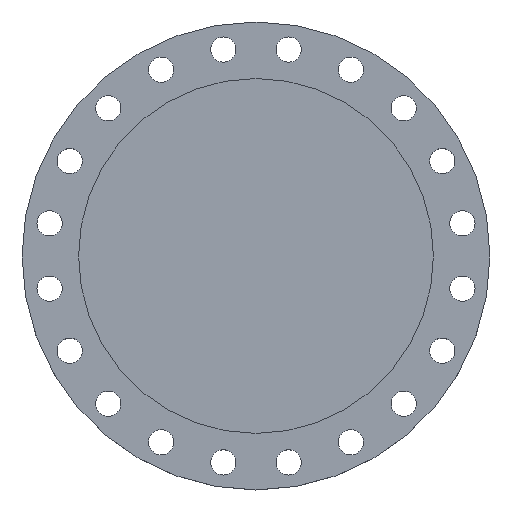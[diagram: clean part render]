
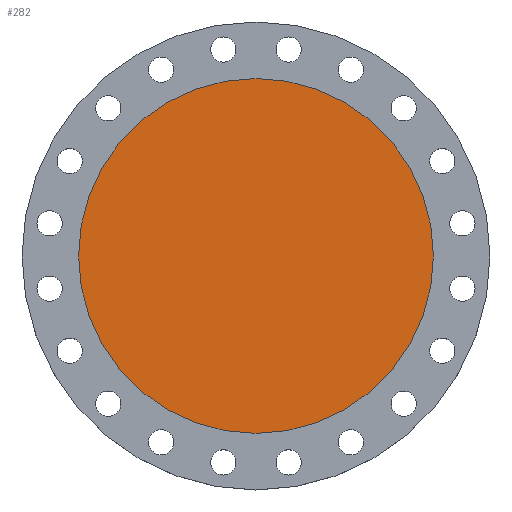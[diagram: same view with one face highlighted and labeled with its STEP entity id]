
A CAD part, top view. The second image highlights one B-rep face of the part: STEP entity #282.
In plain terms, the highlighted planar face has unit normal (0, 0, 1).
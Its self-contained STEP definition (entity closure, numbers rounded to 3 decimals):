
#95 = EDGE_CURVE ( 'NONE', #1009, #1449, #222, .T. ) ;
#222 = CIRCLE ( 'NONE', #228, 337.5 ) ;
#228 = AXIS2_PLACEMENT_3D ( 'NONE', #964, #963, #962 ) ;
#282 = ADVANCED_FACE ( 'NONE', ( #882 ), #881, .T. ) ;
#310 = CARTESIAN_POINT ( 'NONE',  ( -337.5, 0., 0. ) ) ;
#601 = CARTESIAN_POINT ( 'NONE',  ( 337.5, 0., 0. ) ) ;
#606 = AXIS2_PLACEMENT_3D ( 'NONE', #880, #879, #878 ) ;
#646 = DIRECTION ( 'NONE',  ( -1., 0., 0. ) ) ;
#647 = DIRECTION ( 'NONE',  ( 0., 0., -1. ) ) ;
#648 = CARTESIAN_POINT ( 'NONE',  ( 0., 0., 0. ) ) ;
#878 = DIRECTION ( 'NONE',  ( 1., 0., 0. ) ) ;
#879 = DIRECTION ( 'NONE',  ( 0., 0., 1. ) ) ;
#880 = CARTESIAN_POINT ( 'NONE',  ( 0., 0., 0. ) ) ;
#881 = PLANE ( 'NONE',  #606 ) ;
#882 = FACE_OUTER_BOUND ( 'NONE', #1383, .T. ) ;
#931 = EDGE_CURVE ( 'NONE', #1449, #1009, #1298, .T. ) ;
#962 = DIRECTION ( 'NONE',  ( -1., 0., 0. ) ) ;
#963 = DIRECTION ( 'NONE',  ( 0., 0., -1. ) ) ;
#964 = CARTESIAN_POINT ( 'NONE',  ( 0., 0., 0. ) ) ;
#1009 = VERTEX_POINT ( 'NONE', #601 ) ;
#1298 = CIRCLE ( 'NONE', #1304, 337.5 ) ;
#1304 = AXIS2_PLACEMENT_3D ( 'NONE', #648, #647, #646 ) ;
#1383 = EDGE_LOOP ( 'NONE', ( #1504, #1505 ) ) ;
#1449 = VERTEX_POINT ( 'NONE', #310 ) ;
#1504 = ORIENTED_EDGE ( 'NONE', *, *, #931, .F. ) ;
#1505 = ORIENTED_EDGE ( 'NONE', *, *, #95, .F. ) ;
